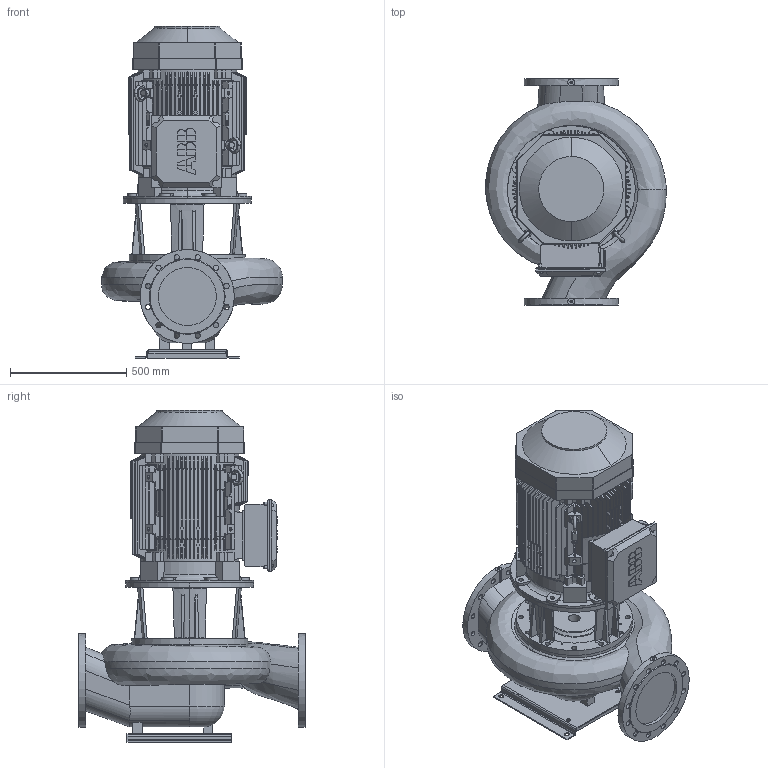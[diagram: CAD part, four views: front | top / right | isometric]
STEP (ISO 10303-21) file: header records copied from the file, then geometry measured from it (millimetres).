
FILE_DESCRIPTION(('STEP AP214'),'1');
FILE_NAME('export.stp','2018-05-30T06:22:28',(' '),(' '),'Spatial InterOp 3D',' ',' ');
FILE_SCHEMA(('AUTOMOTIVE_DESIGN { 1 0 10303 214 1 1 1 1 }'));
Length unit declared in the file: millimetre
Products named in the file (20): W_AL12504SD550; V_TLL125SAL1250; V_PPAL1250; P100464; P100462; P101191; IEC-250; 3GZV183002-193006-183002-183999_; -simplified-simplified_parts_Fan; -simplified-simplified_parts_Ter; 3GZV244000-310999-294000-299999_; 3GZV100000-112999-101007-112999_; -simplified-simplified_parts_Sta; -simplified-simplified_parts_M32; ABBstandard-9ADA_Lifting_Eye_9AD; ICE250_FRAME-F42; P101335
Assembly tree (21 placements, depth 4):
  W_AL12504SD550
    V_TLL125SAL1250
    V_PPAL1250
    P100464
      P100462
      P101191  x2
    ICE250_FRAME-F42
      IEC-250
        3GZV183002-193006-183002-183999_
        -simplified-simplified_parts_Fan
        -simplified-simplified_parts_Ter
        -simplified-simplified_parts_Ter
        3GZV244000-310999-294000-299999_
        3GZV244000-310999-294000-299999_
        3GZV244000-310999-294000-299999_
        3GZV100000-112999-101007-112999_
        -simplified-simplified_parts_Sta
        -simplified-simplified_parts_M32
        ABBstandard-9ADA_Lifting_Eye_9AD  x2
      P101335
Bounding box: 779.17 x 980 x 1430.08 mm (x, y, z)
Volume: 244248755.6 mm3; surface area: 9197141.1 mm2
Topology: 15 solids, 209 shells, 2145 faces, 6433 edges, 4513 vertices
Faces by surface type: bspline 1697, cylinder 249, plane 128, torus 39, cone 32
Entity records: 118004 total; most frequent: CARTESIAN_POINT 38175, ORIENTED_EDGE 11418, STYLED_ITEM 6734, PRESENTATION_STYLE_ASSIGNMENT 6734, COLOUR_RGB 6734, EDGE_CURVE 6164, CURVE_STYLE 4480, DRAUGHTING_PRE_DEFINED_CURVE_FONT 4480
